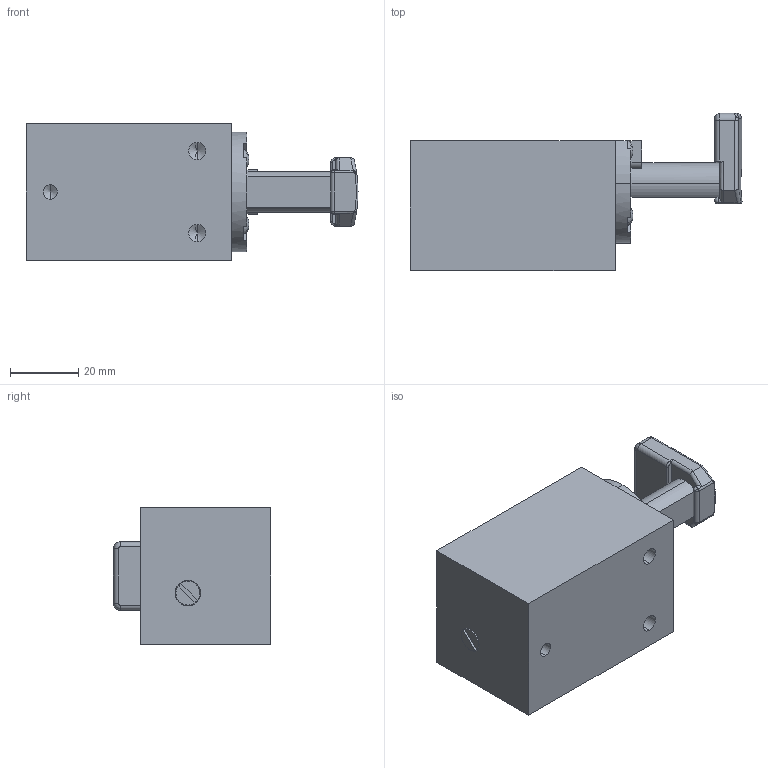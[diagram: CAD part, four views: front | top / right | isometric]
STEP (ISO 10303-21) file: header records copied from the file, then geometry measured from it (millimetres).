
FILE_DESCRIPTION (( 'STEP AP203' ), '1' );
FILE_NAME ('DBSQ-20-60_ausgefahren.STEP', '2018-03-01T12:30:06', ( '' ), ( '' ), 'SwSTEP 2.0', 'SolidWorks 2017', '' );
FILE_SCHEMA (( 'CONFIG_CONTROL_DESIGN' ));
Length unit declared in the file: millimetre
Products named in the file (1): DBSQ-20-60_ausgefahren
Bounding box: 97.2 x 45.99 x 40 mm (x, y, z)
Volume: 100736.9 mm3; surface area: 16447.2 mm2
Topology: 1 solids, 1 shells, 198 faces, 508 edges, 307 vertices
Faces by surface type: plane 97, cylinder 61, sphere 12, cone 10, bspline 10, torus 8
Entity records: 6233 total; most frequent: CARTESIAN_POINT 1384, DIRECTION 1042, ORIENTED_EDGE 988, EDGE_CURVE 494, AXIS2_PLACEMENT_3D 391, VERTEX_POINT 307, LINE 260, VECTOR 260
